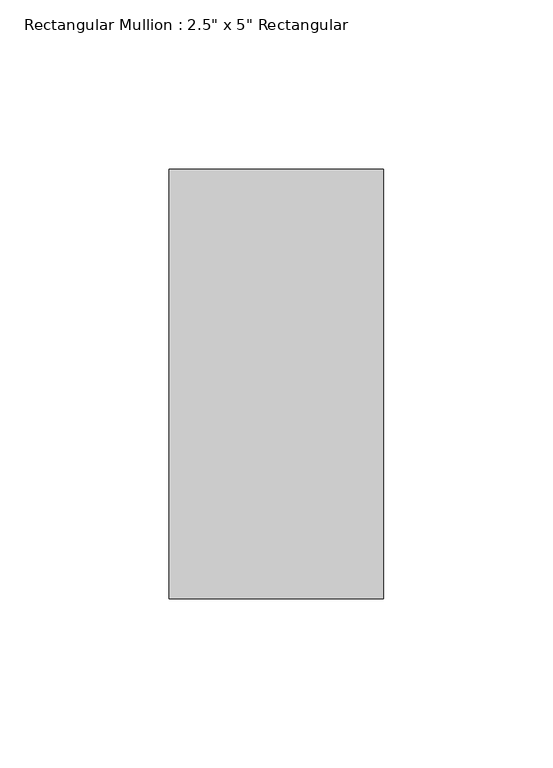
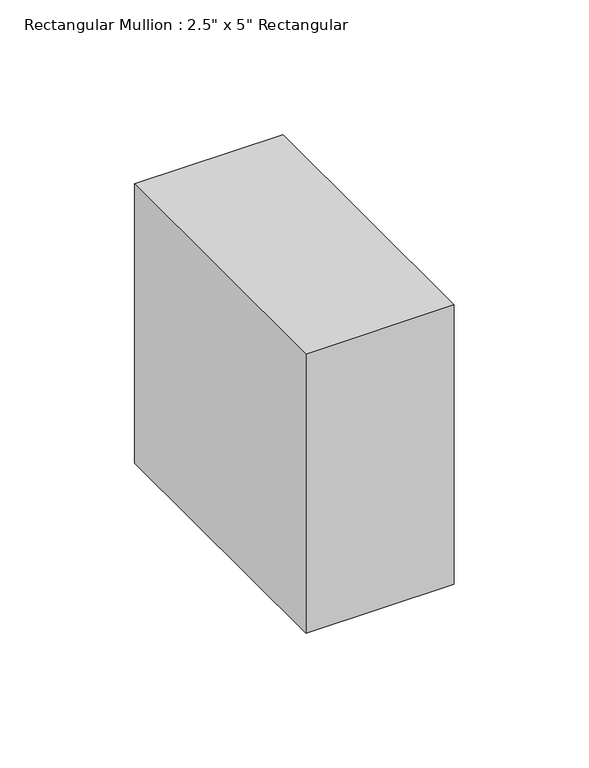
"""IFC4 building model written with IfcOpenShell, lengths in millimetres: member geometry."""

from ifc_helpers import new_model, si_unit, frame, origin, place, context, project, spatial, polyline, outline, extrude, source, transform, mapped, element, save


def member_8774740c(model_context):
    return source(origin(), model_context, "Body", "SweptSolid", [
        extrude(outline(polyline([(0.0, 63.5), (0.0, -63.5), (-63.5, -63.5), (-63.5, 63.5), (0.0, 63.5)])), frame((0.0, 0.0, -126.3142309), z_axis=(0.0, 0.0, 1.0), x_axis=(1.0, 0.0, 0.0)), (0.0, 0.0, 1.0), 126.3142309),
    ])


if __name__ == "__main__":
    model = new_model("IFC4")
    model_context = context("Model", 3, world=origin())
    ifc_project = project(units=[si_unit("LENGTHUNIT", "METRE", prefix="MILLI")], contexts=[model_context])
    site = spatial("IfcSite", under=ifc_project)
    building = spatial("IfcBuilding", under=site)
    placement = place(None, origin())
    member_shape = member_8774740c(model_context)
    element("IfcMember", 1, ObjectType="Rectangular Mullion : 2.5\" x 5\" Rectangular", at=placement, inside=building, context=model_context, shape_type="MappedRepresentation", body=[
        mapped(member_shape, transform((0.0, 0.0, 0.0), x_axis=(1.0, 0.0, 0.0), y_axis=(0.0, 1.0, 0.0), z_axis=(0.0, 0.0, 1.0))),
    ])
    save(model, "model.ifc")
